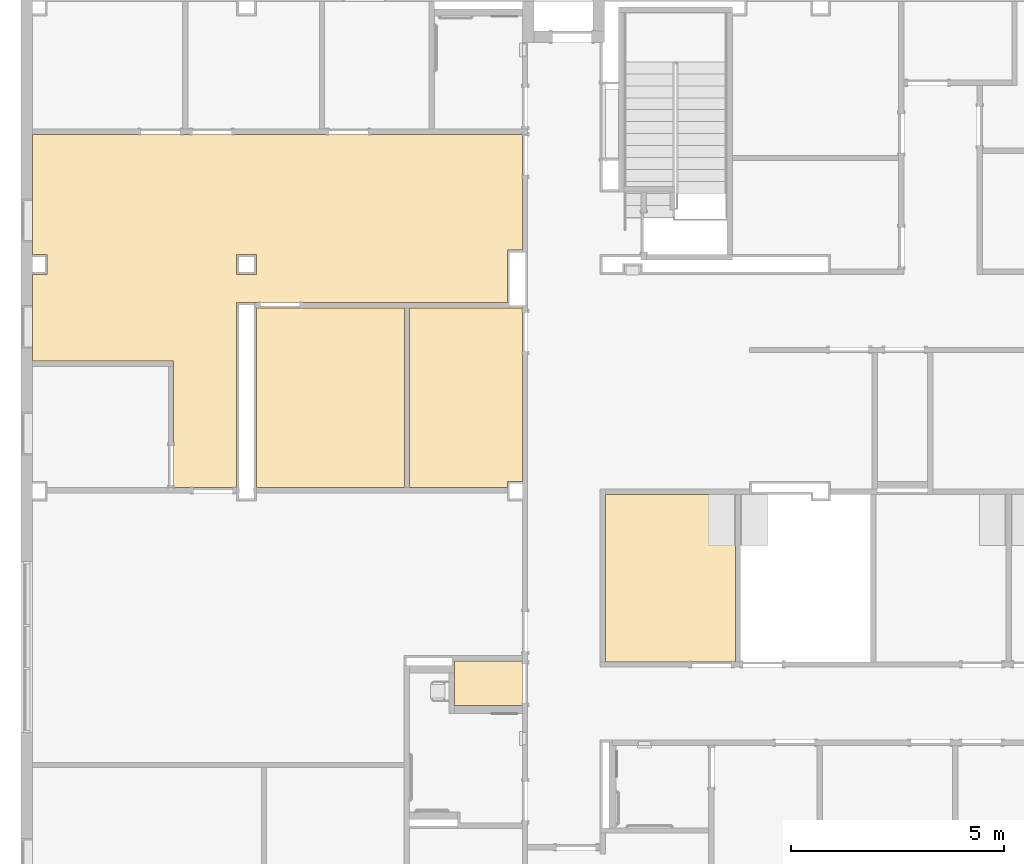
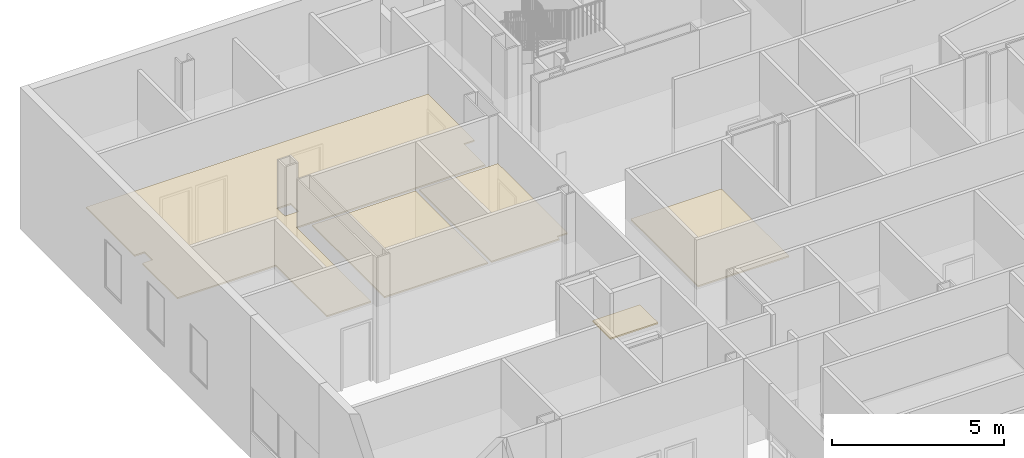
# One storey, part 51 of 82: 5 coverings.
"""IFC2X3 building model written with IfcOpenShell, lengths in metres."""

import ifcopenshell
import ifcopenshell.guid

model = None  # the IFC model being written
_history = None  # IfcOwnerHistory: only IFC2X3 demands one
_inside = {}  # id of a spatial element -> (the spatial element, [elements in it])
_under = {}  # id of a project, library or spatial element -> (it, [spatial elements below it])
_declared = {}  # id of a project -> (the project, [libraries it declares])
_typed = {}  # id of a type object -> (the type object, [elements of that type])
_made_of = {}  # id of a material, layer set ... -> (it, [elements and type objects made of it])


def new_model(schema):
    """Start an empty IFC model of exactly this schema.

    Asked for "IFC4X3", IfcOpenShell would pick the latest addendum, in which some entities
    have other attributes; the version numbers below select the first issue.
    IFC2X3 requires an IfcOwnerHistory on every rooted entity: one is made here for all.
    """
    global model, _history
    if schema == "IFC4X3":
        model = ifcopenshell.file(schema_version=(4, 3, 0, 0))
    else:
        model = ifcopenshell.file(schema=schema)
    _inside.clear()
    _under.clear()
    _declared.clear()
    _typed.clear()
    _made_of.clear()
    _history = None
    if model.schema == "IFC2X3":
        org = make("IfcOrganization", Name="unknown")
        user = make(
            "IfcPersonAndOrganization",
            ThePerson=make("IfcPerson", FamilyName="unknown"),
            TheOrganization=org,
        )
        app = make(
            "IfcApplication",
            ApplicationDeveloper=org,
            Version="unknown",
            ApplicationFullName="unknown",
            ApplicationIdentifier="unknown",
        )
        _history = make(
            "IfcOwnerHistory",
            OwningUser=user,
            OwningApplication=app,
            ChangeAction="ADDED",
            CreationDate=0,
        )
    return model


def make(cls, **values):
    """One entity of the class cls with the attributes given. An attribute that is None is left unset."""
    return model.create_entity(
        cls, **{name: value for name, value in values.items() if value is not None}
    )


def entity(cls, *values):
    """Any entity or typed value of the class cls, its attributes in the order of the schema. None: left unset."""
    e = model.create_entity(cls)
    for i, value in enumerate(values):
        if value is not None:
            e[i] = value
    return e


def rooted(cls, **values):
    """An entity with a GlobalId (a new one), such as an element, a storey or a relation."""
    return make(cls, GlobalId=ifcopenshell.guid.new(), OwnerHistory=_history, **values)


def si_unit(unit_type, name, prefix=None):
    """IfcSIUnit, for example si_unit("LENGTHUNIT", "METRE", prefix="MILLI")."""
    return make("IfcSIUnit", UnitType=unit_type, Prefix=prefix, Name=name)


def converted_unit(unit_type, name, factor, base, dimensions=None, offset=None):
    """IfcConversionBasedUnit, such as the inch: factor (a typed value) times the base unit."""
    return make(
        "IfcConversionBasedUnit"
        if offset is None
        else "IfcConversionBasedUnitWithOffset",
        ConversionOffset=offset,
        Dimensions=None
        if dimensions is None
        else entity("IfcDimensionalExponents", *dimensions),
        UnitType=unit_type,
        Name=name,
        ConversionFactor=make(
            "IfcMeasureWithUnit", ValueComponent=factor, UnitComponent=base
        ),
    )


def assignment(units):
    """IfcUnitAssignment: the units of a project."""
    return None if units is None else make("IfcUnitAssignment", Units=units)


def point(xyz):
    """IfcCartesianPoint."""
    return None if xyz is None else make("IfcCartesianPoint", Coordinates=xyz)


def direction(xyz):
    """IfcDirection."""
    return None if xyz is None else make("IfcDirection", DirectionRatios=xyz)


def frame(location, z_axis=None, x_axis=None):
    """IfcAxis2Placement3D, a coordinate frame: its origin and axes. An axis left out is left unset."""
    return make(
        "IfcAxis2Placement3D",
        Location=point(location),
        Axis=direction(z_axis),
        RefDirection=direction(x_axis),
    )


def origin():
    """The frame at (0, 0, 0) with its axes left unset."""
    return frame((0.0, 0.0, 0.0))


def place(relative_to, where):
    """IfcLocalPlacement: puts the frame where relative to a parent placement (None: the world)."""
    return make(
        "IfcLocalPlacement", PlacementRelTo=relative_to, RelativePlacement=where
    )


def context(
    kind, dimensions, precision=None, world=None, true_north=None, identifier=None
):
    """IfcGeometricRepresentationContext, for example the 3D "Model" context."""
    return make(
        "IfcGeometricRepresentationContext",
        ContextIdentifier=identifier,
        ContextType=kind,
        CoordinateSpaceDimension=dimensions,
        Precision=precision,
        WorldCoordinateSystem=world,
        TrueNorth=true_north,
    )


def project(units=None, contexts=None):
    """IfcProject with its units and contexts."""
    return rooted(
        "IfcProject",
        Name="project",
        RepresentationContexts=contexts,
        UnitsInContext=assignment(units),
    )


def spatial(cls, under=None, at=None, **own):
    """A site, building, storey or space (cls), placed at a placement, below another one or the project."""
    s = rooted(cls, ObjectPlacement=at, **own)
    if under is not None:
        _under.setdefault(under.id(), (under, []))[1].append(s)
    return s


def faces_of(points, faces, orient=None, outer=None):
    """IfcFace entities. A face is a list of loops; a loop is a list of indices into points, from 0.

    orient and outer hold one flag for each loop. By default every Orientation is true, the
    first loop of a face is its IfcFaceOuterBound and the others are IfcFaceBound.
    """
    made = []
    for i, loops in enumerate(faces):
        bounds = []
        for j, loop in enumerate(loops):
            is_outer = j == 0 if outer is None else outer[i][j]
            bounds.append(
                make(
                    "IfcFaceOuterBound" if is_outer else "IfcFaceBound",
                    Bound=make("IfcPolyLoop", Polygon=[points[k] for k in loop]),
                    Orientation=True if orient is None else orient[i][j],
                )
            )
        made.append(make("IfcFace", Bounds=bounds))
    return made


def face_set(faces, orient=None, outer=None):
    """The faces of one IfcConnectedFaceSet. surface_model builds it on its shared points."""
    return ("IfcConnectedFaceSet", faces, orient, outer)


def surface_model(cls, points, shells):
    """IfcFaceBasedSurfaceModel or IfcShellBasedSurfaceModel (cls): surfaces that need not close."""
    shared = [point(p) for p in points]
    made = [make(c, CfsFaces=faces_of(shared, fs, o, b)) for c, fs, o, b in shells]
    if cls == "IfcFaceBasedSurfaceModel":
        return make(cls, FbsmFaces=made)
    return make(cls, SbsmBoundary=made)


def shape(context_of_items, identifier, shape_type, items):
    """IfcShapeRepresentation: the items that make up one representation, for example the "Body"."""
    return make(
        "IfcShapeRepresentation",
        ContextOfItems=context_of_items,
        RepresentationIdentifier=identifier,
        RepresentationType=shape_type,
        Items=items,
    )


def material(Name=None, Category=None):
    """IfcMaterial."""
    return make("IfcMaterial", Name=Name, Category=Category)


def layer(
    of_material, thickness, ventilated=None, Name=None, Category=None, Priority=None
):
    """IfcMaterialLayer: one layer of a wall or slab, of a material (None: an air gap)."""
    return make(
        "IfcMaterialLayer",
        Material=of_material,
        LayerThickness=thickness,
        IsVentilated=ventilated,
        Name=Name,
        Category=Category,
        Priority=Priority,
    )


def layer_set(layers, Name=None):
    """IfcMaterialLayerSet."""
    return make("IfcMaterialLayerSet", MaterialLayers=layers, LayerSetName=Name)


def layer_usage(for_layer_set, set_direction, sense, offset, extent=None):
    """IfcMaterialLayerSetUsage: how a layer set lies in its element."""
    return make(
        "IfcMaterialLayerSetUsage",
        ForLayerSet=for_layer_set,
        LayerSetDirection=set_direction,
        DirectionSense=sense,
        OffsetFromReferenceLine=offset,
        ReferenceExtent=extent,
    )


def made_of(thing, what):
    """Note that an element or type object is made of a material, layer set ...; save() writes the relation."""
    if what is not None:
        _made_of.setdefault(what.id(), (what, []))[1].append(thing)
    return thing


def element(
    cls,
    number,
    at=None,
    inside=None,
    cuts=None,
    type_object=None,
    material=None,
    context=None,
    identifier="Body",
    shape_type=None,
    held_by="IfcProductDefinitionShape",
    body=None,
    shapes=None,
    **own,
):
    """One element of the class cls, such as IfcWall. Its Tag is "e" and its number.

    at: its placement. inside: the storey or other place that contains it. cuts: it is an
    opening in that element (IfcRelVoidsElement). A single representation is given by context,
    identifier, shape_type and body (its items); several are given by shapes. held_by: the class
    of the entity that holds the representations. save() writes the other relations.
    """
    e = rooted(cls, Tag="e%d" % number, ObjectPlacement=at, **own)
    if body is not None:
        shapes = [shape(context, identifier, shape_type, body)]
    if shapes is not None:
        e.Representation = make(held_by, Representations=shapes)
    if inside is not None:
        _inside.setdefault(inside.id(), (inside, []))[1].append(e)
    if cuts is not None:
        rooted(
            "IfcRelVoidsElement", RelatingBuildingElement=cuts, RelatedOpeningElement=e
        )
    if type_object is not None:
        _typed.setdefault(type_object.id(), (type_object, []))[1].append(e)
    return made_of(e, material)


def aggregate(whole, parts):
    """IfcRelAggregates: a whole, such as a stair, and the parts it consists of."""
    return rooted("IfcRelAggregates", RelatingObject=whole, RelatedObjects=parts)


def save(model, path):
    """Write the relations noted so far, then the file.

    IfcRelAggregates (storeys below a building ...), IfcRelContainedInSpatialStructure (elements
    in a storey), IfcRelDefinesByType, IfcRelAssociatesMaterial and IfcRelDeclares: one each for
    every whole, place, type object, material and project.
    """
    for whole, parts in _under.values():
        aggregate(whole, parts)
    for where, things in _inside.values():
        rooted(
            "IfcRelContainedInSpatialStructure",
            RelatedElements=things,
            RelatingStructure=where,
        )
    for kind, things in _typed.values():
        rooted("IfcRelDefinesByType", RelatedObjects=things, RelatingType=kind)
    for what, things in _made_of.values():
        rooted("IfcRelAssociatesMaterial", RelatedObjects=things, RelatingMaterial=what)
    for by, libraries in _declared.values():
        rooted("IfcRelDeclares", RelatingContext=by, RelatedDefinitions=libraries)
    model.write(path)


model = new_model("IFC2X3")

# Units and contexts
model_context = context("Model", 3, precision=1e-09, world=origin())
plan_context = context("Plan", 3, precision=1e-09, world=origin())
ifc_project = project(units=[si_unit("LENGTHUNIT", "METRE"), si_unit("AREAUNIT", "SQUARE_METRE"), si_unit("VOLUMEUNIT", "CUBIC_METRE"), converted_unit("PLANEANGLEUNIT", "DEGREE", entity("IfcRatioMeasure", 0.01745329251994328), si_unit("PLANEANGLEUNIT", "RADIAN"), dimensions=[0, 0, 0, 0, 0, 0, 0]), si_unit("TIMEUNIT", "SECOND")], contexts=[model_context, plan_context])

# Site, building, storey
site_placement = place(None, origin())
site = spatial("IfcSite", under=ifc_project, at=site_placement, Name="Default", CompositionType="ELEMENT")
building_placement = place(site_placement, origin())
building = spatial("IfcBuilding", under=site, at=building_placement, CompositionType="ELEMENT")
storey_placement = place(building_placement, origin())
storey = spatial("IfcBuildingStorey", under=building, at=storey_placement, Name="First Floor", CompositionType="ELEMENT", Elevation=-3.531500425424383e-13)

# Coverings
ifc_material_1 = material(Name="Default")
ifc_layer_1 = layer(ifc_material_1, 0.03599999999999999)
ifc_material_2 = material(Name="Ceiling Tile 600 x 600")
ifc_layer_2 = layer(ifc_material_2, 0.016)
ifc_layer_set = layer_set([ifc_layer_1, ifc_layer_2], Name="Compound Ceiling:ACT 600 x 600mm Grid")
ifc_layer_usage = layer_usage(ifc_layer_set, "AXIS3", "NEGATIVE", 0.0)
covering_1_placement = place(storey_placement, origin())
element("IfcCovering", 1, at=covering_1_placement, inside=storey, material=ifc_layer_usage, Name="Compound Ceiling:ACT 600 x 600mm Grid", ObjectType="Compound Ceiling:ACT 600 x 600mm Grid", PredefinedType="CEILING", context=model_context, shape_type="SurfaceModel", body=[
    surface_model("IfcFaceBasedSurfaceModel", [(-52.01300000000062, 53.13999999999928, 2.732), (-40.53700000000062, 53.13999999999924, 2.732), (-40.53700000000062, 50.42999999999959, 2.732), (-40.89000000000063, 50.42999999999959, 2.732), (-40.89000000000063, 49.19399999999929, 2.732), (-47.23000000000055, 49.1939999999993, 2.732), (-47.23000000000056, 44.86399999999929, 2.732), (-48.70500000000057, 44.86399999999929, 2.732), (-48.70500000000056, 47.82999999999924, 2.732), (-52.01300000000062, 47.82999999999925, 2.732), (-52.01300000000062, 49.85999999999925, 2.732), (-51.67000000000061, 49.85999999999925, 2.732), (-51.67000000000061, 50.31999999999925, 2.732), (-52.01300000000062, 50.31999999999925, 2.732), (-46.77000000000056, 50.31999999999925, 2.732), (-47.23000000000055, 50.31999999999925, 2.732), (-47.23000000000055, 49.85999999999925, 2.732), (-46.77000000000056, 49.85999999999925, 2.732), (-52.01300000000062, 53.13999999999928, 2.68), (-40.53700000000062, 53.13999999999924, 2.68), (-40.53700000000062, 50.42999999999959, 2.68), (-40.89000000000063, 50.42999999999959, 2.68), (-40.89000000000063, 49.19399999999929, 2.68), (-47.23000000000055, 49.1939999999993, 2.68), (-47.23000000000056, 44.86399999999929, 2.68), (-48.70500000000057, 44.86399999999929, 2.68), (-48.70500000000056, 47.82999999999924, 2.68), (-52.01300000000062, 47.82999999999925, 2.68), (-52.01300000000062, 49.85999999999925, 2.68), (-51.67000000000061, 49.85999999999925, 2.68), (-51.67000000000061, 50.31999999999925, 2.68), (-52.01300000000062, 50.31999999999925, 2.68), (-46.77000000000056, 50.31999999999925, 2.68), (-47.23000000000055, 50.31999999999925, 2.68), (-47.23000000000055, 49.85999999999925, 2.68), (-46.77000000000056, 49.85999999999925, 2.68)], [face_set([[[0, 1, 2, 3, 4, 5, 6, 7, 8, 9, 10, 11, 12, 13], [14, 15, 16, 17]], [[18, 19, 20, 21, 22, 23, 24, 25, 26, 27, 28, 29, 30, 31], [32, 33, 34, 35]], [[16, 34, 35, 17]], [[15, 16, 34, 33]], [[14, 15, 33, 32]], [[17, 35, 32, 14]], [[13, 31, 18, 0]], [[12, 13, 31, 30]], [[11, 29, 30, 12]], [[10, 28, 29, 11]], [[9, 27, 28, 10]], [[8, 9, 27, 26]], [[7, 25, 26, 8]], [[6, 7, 25, 24]], [[5, 6, 24, 23]], [[4, 5, 23, 22]], [[3, 4, 22, 21]], [[2, 3, 21, 20]], [[1, 2, 20, 19]], [[0, 18, 19, 1]]])]),
])
covering_2_placement = place(storey_placement, origin())
element("IfcCovering", 2, at=covering_2_placement, inside=storey, material=ifc_layer_usage, Name="Compound Ceiling:ACT 600 x 600mm Grid", ObjectType="Compound Ceiling:ACT 600 x 600mm Grid", PredefinedType="CEILING", context=model_context, shape_type="SurfaceModel", body=[
    surface_model("IfcFaceBasedSurfaceModel", [(-46.77000000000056, 49.06999999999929, 2.732), (-43.30400000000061, 49.06999999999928, 2.732), (-43.30400000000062, 44.86399999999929, 2.732), (-46.77000000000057, 44.86399999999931, 2.732), (-46.77000000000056, 49.06999999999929, 2.68), (-43.30400000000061, 49.06999999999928, 2.68), (-43.30400000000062, 44.86399999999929, 2.68), (-46.77000000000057, 44.86399999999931, 2.68)], [face_set([[[0, 1, 2, 3]], [[4, 5, 6, 7]], [[2, 3, 7, 6]], [[1, 2, 6, 5]], [[0, 4, 5, 1]], [[3, 7, 4, 0]]])]),
])
covering_3_placement = place(storey_placement, origin())
element("IfcCovering", 3, at=covering_3_placement, inside=storey, material=ifc_layer_usage, Name="Compound Ceiling:ACT 600 x 600mm Grid", ObjectType="Compound Ceiling:ACT 600 x 600mm Grid", PredefinedType="CEILING", context=model_context, shape_type="SurfaceModel", body=[
    surface_model("IfcFaceBasedSurfaceModel", [(-40.53700000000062, 49.06999999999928, 2.732), (-40.53700000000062, 45.00999999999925, 2.732), (-40.89000000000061, 45.00999999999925, 2.732), (-40.89000000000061, 44.86399999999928, 2.732), (-43.18000000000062, 44.86399999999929, 2.732), (-43.1800000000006, 49.06999999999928, 2.732), (-40.53700000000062, 49.06999999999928, 2.68), (-40.53700000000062, 45.00999999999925, 2.68), (-40.89000000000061, 45.00999999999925, 2.68), (-40.89000000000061, 44.86399999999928, 2.68), (-43.18000000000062, 44.86399999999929, 2.68), (-43.1800000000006, 49.06999999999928, 2.68)], [face_set([[[0, 1, 2, 3, 4, 5]], [[6, 7, 8, 9, 10, 11]], [[5, 11, 6, 0]], [[4, 10, 11, 5]], [[3, 4, 10, 9]], [[2, 3, 9, 8]], [[1, 2, 8, 7]], [[0, 1, 7, 6]]])]),
])
covering_4_placement = place(storey_placement, origin())
element("IfcCovering", 4, at=covering_4_placement, inside=storey, material=ifc_layer_usage, Name="Compound Ceiling:ACT 600 x 600mm Grid", ObjectType="Compound Ceiling:ACT 600 x 600mm Grid", PredefinedType="CEILING", context=model_context, shape_type="SurfaceModel", body=[
    surface_model("IfcFaceBasedSurfaceModel", [(-40.53700000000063, 40.80599999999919, 2.732), (-40.53700000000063, 39.75739999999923, 2.732), (-42.13080000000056, 39.75739999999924, 2.732), (-42.13080000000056, 40.80599999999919, 2.732), (-40.53700000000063, 40.80599999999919, 2.68), (-40.53700000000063, 39.75739999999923, 2.68), (-42.13080000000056, 39.75739999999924, 2.68), (-42.13080000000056, 40.80599999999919, 2.68)], [face_set([[[0, 1, 2, 3]], [[4, 5, 6, 7]], [[3, 7, 4, 0]], [[2, 6, 7, 3]], [[1, 2, 6, 5]], [[0, 1, 5, 4]]])]),
])
covering_5_placement = place(storey_placement, origin())
element("IfcCovering", 5, at=covering_5_placement, inside=storey, material=ifc_layer_usage, Name="Compound Ceiling:ACT 600 x 600mm Grid", ObjectType="Compound Ceiling:ACT 600 x 600mm Grid", PredefinedType="CEILING", context=model_context, shape_type="SurfaceModel", body=[
    surface_model("IfcFaceBasedSurfaceModel", [(-38.59600000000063, 40.78399999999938, 2.732), (-38.59600000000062, 44.70599999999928, 2.732), (-35.55000000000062, 44.70599999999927, 2.732), (-35.55000000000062, 40.78399999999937, 2.732), (-38.59600000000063, 40.78399999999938, 2.68), (-38.59600000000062, 44.70599999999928, 2.68), (-35.55000000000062, 44.70599999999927, 2.68), (-35.55000000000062, 40.78399999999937, 2.68)], [face_set([[[0, 1, 2, 3]], [[4, 5, 6, 7]], [[3, 0, 4, 7]], [[2, 3, 7, 6]], [[1, 5, 6, 2]], [[0, 4, 5, 1]]])]),
])

save(model, "model.ifc")
